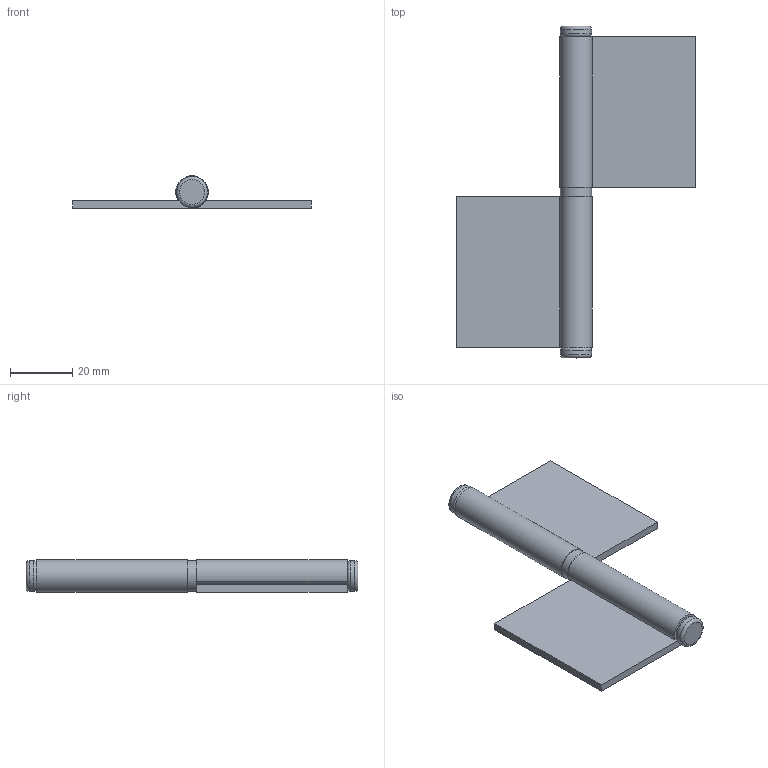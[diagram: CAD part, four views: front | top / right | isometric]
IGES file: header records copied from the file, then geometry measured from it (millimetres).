
Global section: file name: DR_HBSN10177-25; native system: Autodesk Inventor 2015; preprocessor: unknown; author: Administrator; date: 20170817.131343; units: millimetre
Bounding box: 77 x 107 x 10.5 mm (x, y, z)
Volume: 17051.6 mm3; surface area: 14630.7 mm2
Topology: 5 solids, 5 shells, 33 faces, 61 edges, 39 vertices
Faces by surface type: bspline 33
